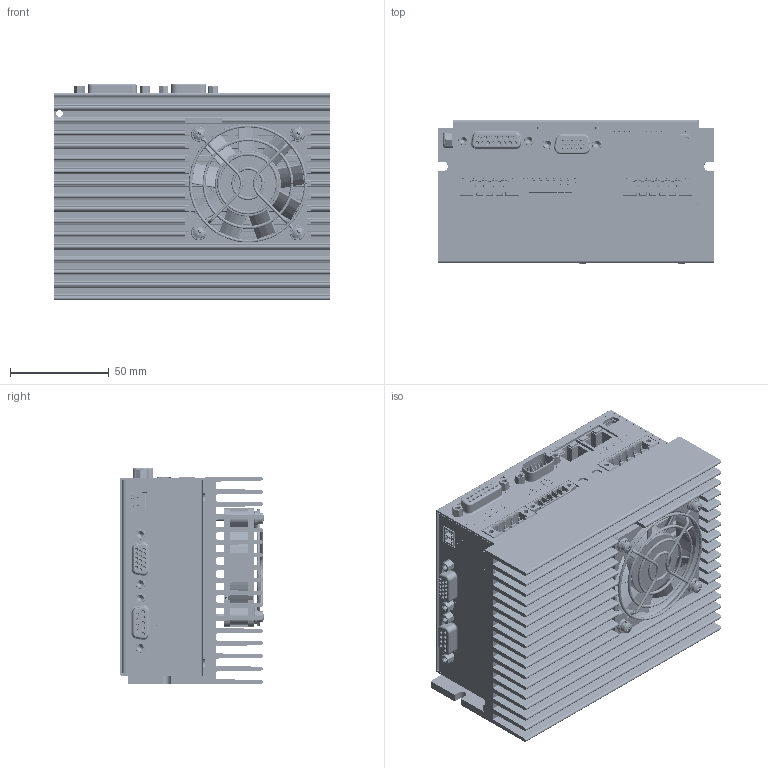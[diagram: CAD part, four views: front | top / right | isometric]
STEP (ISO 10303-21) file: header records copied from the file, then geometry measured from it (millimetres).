
FILE_DESCRIPTION (( 'STEP AP203' ), '1' );
FILE_NAME ('GOLD BASOON_heatsink.STEP', '2014-06-08T11:09:34', ( 'YAEL' ), ( 'Microsoft' ), 'SwSTEP 2.0', 'SolidWorks 2013', '' );
FILE_SCHEMA (( 'CONFIG_CONTROL_DESIGN' ));
Products named in the file (1): GOLD BASOON_heatsink
Bounding box: 140 x 73.02 x 109.4 mm (x, y, z)
Volume: 278676.2 mm3; surface area: 232236 mm2
Topology: 53 solids, 55 shells, 7822 faces, 20724 edges, 13541 vertices
Faces by surface type: plane 5423, bspline 1091, cylinder 1034, cone 205, torus 46, sphere 23
Full cylindrical faces by diameter (mm): 0.077 x1, 0.092 x1, 0.097 x1, 0.141 x1, 0.15 x5, 0.434 x2, 0.457 x2, 0.6 x12, 0.75 x15, 0.89 x16, 0.95 x15, 1.15 x24, 1.2 x8, 1.25 x10, 1.4 x12, 1.5 x12, 1.6 x6, 1.8 x6, 1.9 x3, 2.05 x6, 2.261 x6, 2.3 x6, 2.33 x2, 2.35 x8, 2.4 x6, 2.5 x13, 2.65 x4, 2.75 x8, 2.8 x7, 2.845 x8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
Entity records: 291539 total; most frequent: CARTESIAN_POINT 107325, ORIENTED_EDGE 40048, DIRECTION 33028, EDGE_CURVE 20024, LINE 15206, VECTOR 15206, VERTEX_POINT 13330, EDGE_LOOP 9002
